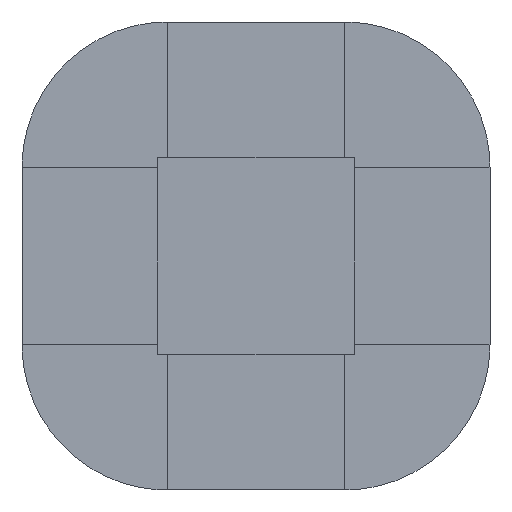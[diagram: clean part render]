
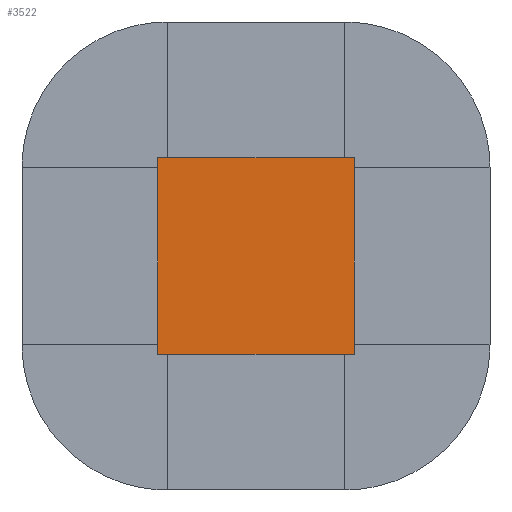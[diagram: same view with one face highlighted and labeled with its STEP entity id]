
A CAD part, top view. The second image highlights one B-rep face of the part: STEP entity #3522.
In plain terms, the highlighted planar face has unit normal (0, 0, 1).
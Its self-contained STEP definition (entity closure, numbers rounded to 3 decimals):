
#3386=CARTESIAN_POINT('Vertex',(0.,0.,20.)) ;
#3400=CARTESIAN_POINT('Vertex',(278.,0.,20.)) ;
#3403=CARTESIAN_POINT('Line Origine',(139.,0.,20.)) ;
#3431=CARTESIAN_POINT('Vertex',(278.,278.,20.)) ;
#3434=CARTESIAN_POINT('Line Origine',(278.,139.,20.)) ;
#3462=CARTESIAN_POINT('Vertex',(0.,278.,20.)) ;
#3465=CARTESIAN_POINT('Line Origine',(139.,278.,20.)) ;
#3487=CARTESIAN_POINT('Line Origine',(0.,139.,20.)) ;
#3511=CARTESIAN_POINT('Axis2P3D Location',(0.,0.,20.)) ;
#3404=DIRECTION('Vector Direction',(1.,0.,0.)) ;
#3435=DIRECTION('Vector Direction',(0.,1.,0.)) ;
#3466=DIRECTION('Vector Direction',(-1.,0.,0.)) ;
#3488=DIRECTION('Vector Direction',(0.,-1.,0.)) ;
#3512=DIRECTION('Axis2P3D Direction',(0.,0.,1.)) ;
#3513=DIRECTION('Axis2P3D XDirection',(1.,0.,0.)) ;
#3514=AXIS2_PLACEMENT_3D('Plane Axis2P3D',#3511,#3512,#3513) ;
#3517=ORIENTED_EDGE('',*,*,#3407,.T.) ;
#3518=ORIENTED_EDGE('',*,*,#3438,.T.) ;
#3519=ORIENTED_EDGE('',*,*,#3469,.T.) ;
#3520=ORIENTED_EDGE('',*,*,#3491,.T.) ;
#3405=VECTOR('Line Direction',#3404,1.) ;
#3436=VECTOR('Line Direction',#3435,1.) ;
#3467=VECTOR('Line Direction',#3466,1.) ;
#3489=VECTOR('Line Direction',#3488,1.) ;
#3522=ADVANCED_FACE('Cavity',(#3521),#3515,.T.) ;
#3407=EDGE_CURVE('',#3387,#3401,#3406,.T.) ;
#3438=EDGE_CURVE('',#3401,#3432,#3437,.T.) ;
#3469=EDGE_CURVE('',#3432,#3463,#3468,.T.) ;
#3491=EDGE_CURVE('',#3463,#3387,#3490,.T.) ;
#3516=EDGE_LOOP('',(#3517,#3518,#3519,#3520)) ;
#3521=FACE_OUTER_BOUND('',#3516,.T.) ;
#3406=LINE('Line',#3403,#3405) ;
#3437=LINE('Line',#3434,#3436) ;
#3468=LINE('Line',#3465,#3467) ;
#3490=LINE('Line',#3487,#3489) ;
#3515=PLANE('',#3514) ;
#3387=VERTEX_POINT('',#3386) ;
#3401=VERTEX_POINT('',#3400) ;
#3432=VERTEX_POINT('',#3431) ;
#3463=VERTEX_POINT('',#3462) ;
